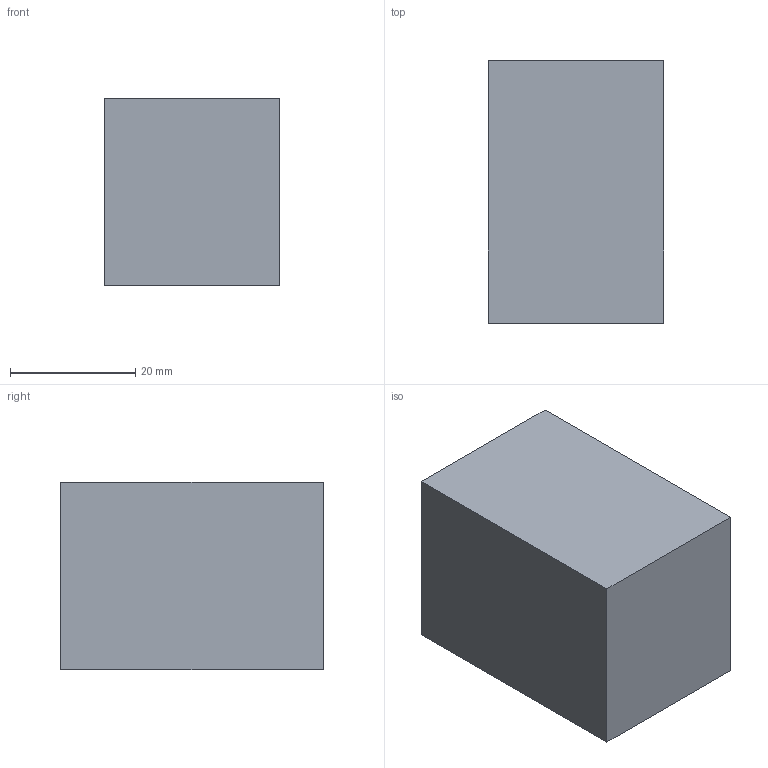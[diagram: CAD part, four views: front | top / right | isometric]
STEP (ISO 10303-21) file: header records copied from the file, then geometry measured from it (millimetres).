
FILE_DESCRIPTION(('Open CASCADE Model'),'2;1');
FILE_NAME('Open CASCADE Shape Model','2026-10-04T01:02:33',('Author'),( 'Open CASCADE'),'Open CASCADE STEP processor 8.0','Open CASCADE 8.0' ,'Unknown');
FILE_SCHEMA(('AUTOMOTIVE_DESIGN { 1 0 10303 214 1 1 1 1 }'));
Length unit declared in the file: millimetre
Products named in the file (1): Open CASCADE STEP translator 8.0 307
Bounding box: 28 x 42 x 30 mm (x, y, z)
Volume: 35280 mm3; surface area: 6552 mm2
Topology: 1 solids, 1 shells, 6 faces, 12 edges, 8 vertices
Faces by surface type: plane 6
Entity records: 322 total; most frequent: CARTESIAN_POINT 51, DIRECTION 50, LINE 36, VECTOR 36, ORIENTED_EDGE 24, PCURVE 24, DEFINITIONAL_REPRESENTATION 24, EDGE_CURVE 12
